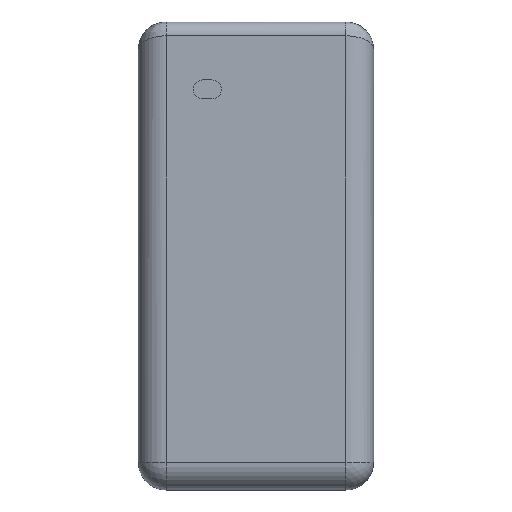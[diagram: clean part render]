
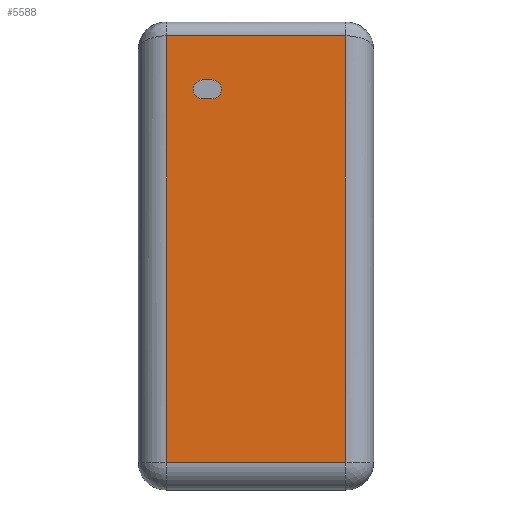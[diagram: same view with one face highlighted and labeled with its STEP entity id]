
A CAD part, front view. The second image highlights one B-rep face of the part: STEP entity #5588.
In plain terms, the highlighted planar face has unit normal (0, -1, 0).
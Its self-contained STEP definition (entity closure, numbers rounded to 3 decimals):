
#72=DIRECTION('',(0.,0.,1.));
#73=VECTOR('',#72,92.5);
#74=CARTESIAN_POINT('',(19.5,0.,-95.5));
#75=LINE('',#74,#73);
#80=DIRECTION('',(1.,0.,0.));
#81=VECTOR('',#80,39.);
#82=CARTESIAN_POINT('',(-19.5,0.,-95.5));
#83=LINE('',#82,#81);
#87=DIRECTION('',(0.,0.,-1.));
#88=VECTOR('',#87,92.5);
#89=CARTESIAN_POINT('',(-19.5,0.,-3.));
#90=LINE('',#89,#88);
#94=DIRECTION('',(-1.,0.,0.));
#95=VECTOR('',#94,39.);
#96=CARTESIAN_POINT('',(19.5,0.,-3.));
#97=LINE('',#96,#95);
#101=CARTESIAN_POINT('',(-9.55,0.,-14.6));
#102=DIRECTION('',(0.,-1.,0.));
#103=DIRECTION('',(0.,0.,-1.));
#104=AXIS2_PLACEMENT_3D('',#101,#102,#103);
#109=DIRECTION('',(-1.,0.,0.));
#110=VECTOR('',#109,2.);
#111=CARTESIAN_POINT('',(-9.55,0.,-12.55));
#112=LINE('',#111,#110);
#116=CARTESIAN_POINT('',(-11.55,0.,-14.6));
#117=DIRECTION('',(0.,-1.,0.));
#118=DIRECTION('',(0.,0.,1.));
#119=AXIS2_PLACEMENT_3D('',#116,#117,#118);
#124=DIRECTION('',(1.,0.,0.));
#125=VECTOR('',#124,2.);
#126=CARTESIAN_POINT('',(-11.55,0.,-16.65));
#127=LINE('',#126,#125);
#539=CARTESIAN_POINT('',(-19.5,0.,
-3.));
#5099=CARTESIAN_POINT('',(19.5,0.,-95.5));
#5100=VERTEX_POINT('',#5099);
#5112=CARTESIAN_POINT('',(-19.5,0.,-95.5));
#5113=VERTEX_POINT('',#5112);
#5114=VERTEX_POINT('',#539);
#5115=CARTESIAN_POINT('',(19.5,0.,
-3.));
#5116=VERTEX_POINT('',#5115);
#5221=CARTESIAN_POINT('',(-9.55,0.,-16.65));
#5222=CARTESIAN_POINT('',(-9.55,0.,-12.55));
#5223=VERTEX_POINT('',#5221);
#5224=VERTEX_POINT('',#5222);
#5225=CARTESIAN_POINT('',(-11.55,0.,-12.55));
#5226=VERTEX_POINT('',#5225);
#5227=CARTESIAN_POINT('',(-11.55,0.,-16.65));
#5228=VERTEX_POINT('',#5227);
#5563=CARTESIAN_POINT('',(0.,0.,0.));
#5564=DIRECTION('',(0.,1.,0.));
#5565=DIRECTION('',(1.,0.,0.));
#5566=AXIS2_PLACEMENT_3D('',#5563,#5564,#5565);
#5567=PLANE('',#5566);
#5569=ORIENTED_EDGE('',*,*,#5568,.F.);
#5571=ORIENTED_EDGE('',*,*,#5570,.F.);
#5573=ORIENTED_EDGE('',*,*,#5572,.F.);
#5575=ORIENTED_EDGE('',*,*,#5574,.F.);
#5576=EDGE_LOOP('',(#5569,#5571,#5573,#5575));
#5577=FACE_OUTER_BOUND('',#5576,.F.);
#5579=ORIENTED_EDGE('',*,*,#5578,.T.);
#5581=ORIENTED_EDGE('',*,*,#5580,.T.);
#5583=ORIENTED_EDGE('',*,*,#5582,.T.);
#5585=ORIENTED_EDGE('',*,*,#5584,.T.);
#5586=EDGE_LOOP('',(#5579,#5581,#5583,#5585));
#5587=FACE_BOUND('',#5586,.F.);
#105=CIRCLE('',#104,2.05);
#120=CIRCLE('',#119,2.05);
#5568=EDGE_CURVE('',#5100,#5116,#75,.T.);
#5570=EDGE_CURVE('',#5113,#5100,#83,.T.);
#5572=EDGE_CURVE('',#5114,#5113,#90,.T.);
#5574=EDGE_CURVE('',#5116,#5114,#97,.T.);
#5578=EDGE_CURVE('',#5223,#5224,#105,.T.);
#5580=EDGE_CURVE('',#5224,#5226,#112,.T.);
#5582=EDGE_CURVE('',#5226,#5228,#120,.T.);
#5584=EDGE_CURVE('',#5228,#5223,#127,.T.);
#5588=ADVANCED_FACE('',(#5577,#5587),#5567,.F.);
